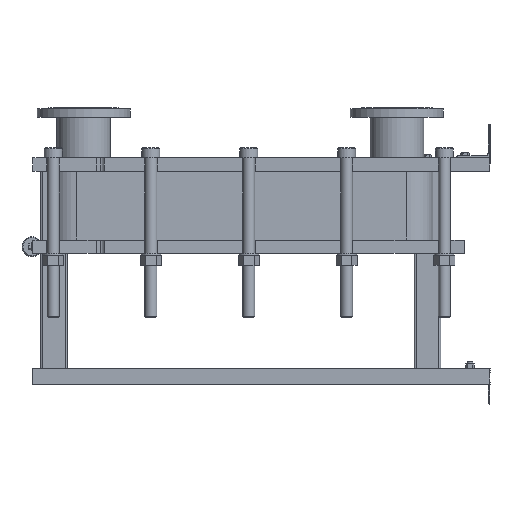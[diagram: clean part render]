
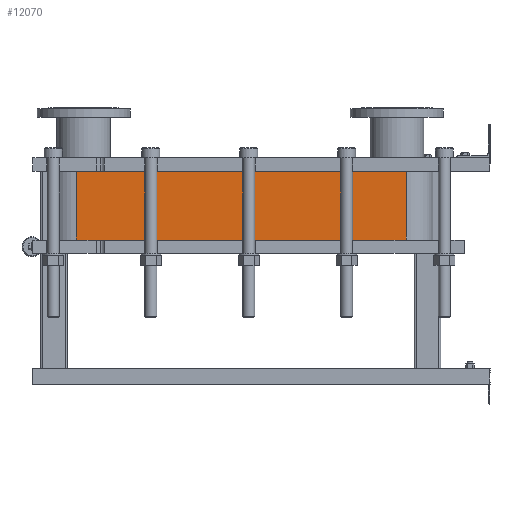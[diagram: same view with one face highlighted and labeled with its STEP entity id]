
A CAD part, left-side view. The second image highlights one B-rep face of the part: STEP entity #12070.
In plain terms, the highlighted planar face has unit normal (-1, 0, 0).
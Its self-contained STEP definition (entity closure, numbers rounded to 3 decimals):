
#1064=LINE('',#21140,#2164);
#1065=LINE('',#21144,#2165);
#1066=LINE('',#21146,#2166);
#1067=LINE('',#21147,#2167);
#2164=VECTOR('',#15790,10.);
#2165=VECTOR('',#15795,10.);
#2166=VECTOR('',#15796,10.);
#2167=VECTOR('',#15797,10.);
#3304=FACE_OUTER_BOUND('',#4091,.T.);
#4091=EDGE_LOOP('',(#9793,#9794,#9795,#9796));
#5677=VERTEX_POINT('',#21137);
#5678=VERTEX_POINT('',#21139);
#5679=VERTEX_POINT('',#21143);
#5680=VERTEX_POINT('',#21145);
#7118=EDGE_CURVE('',#5678,#5677,#1064,.T.);
#7120=EDGE_CURVE('',#5677,#5679,#1065,.T.);
#7121=EDGE_CURVE('',#5680,#5679,#1066,.T.);
#7122=EDGE_CURVE('',#5680,#5678,#1067,.T.);
#9793=ORIENTED_EDGE('',*,*,#7120,.T.);
#9794=ORIENTED_EDGE('',*,*,#7121,.F.);
#9795=ORIENTED_EDGE('',*,*,#7122,.T.);
#9796=ORIENTED_EDGE('',*,*,#7118,.T.);
#11441=PLANE('',#13191);
#12070=ADVANCED_FACE('',(#3304),#11441,.T.);
#13191=AXIS2_PLACEMENT_3D('',#21142,#15793,#15794);
#15790=DIRECTION('',(0.,0.,-1.));
#15793=DIRECTION('center_axis',(-1.,0.,0.));
#15794=DIRECTION('ref_axis',(0.,1.,0.));
#15795=DIRECTION('',(0.,-1.,0.));
#15796=DIRECTION('',(0.,0.,-1.));
#15797=DIRECTION('',(0.,1.,0.));
#21137=CARTESIAN_POINT('',(-248.152,1243.818,-207.));
#21139=CARTESIAN_POINT('',(-248.152,1243.818,0.));
#21140=CARTESIAN_POINT('',(-248.152,1243.818,0.));
#21142=CARTESIAN_POINT('Origin',(-248.152,251.818,0.));
#21143=CARTESIAN_POINT('',(-248.152,251.818,-207.));
#21144=CARTESIAN_POINT('',(-248.152,499.818,-207.));
#21145=CARTESIAN_POINT('',(-248.152,251.818,0.));
#21146=CARTESIAN_POINT('',(-248.152,251.818,0.));
#21147=CARTESIAN_POINT('',(-248.152,251.818,0.));
